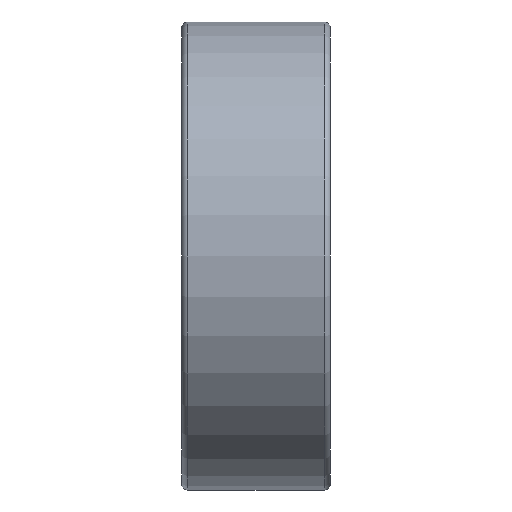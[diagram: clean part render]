
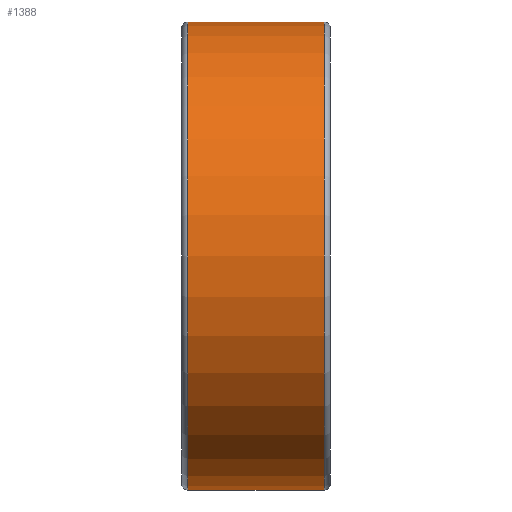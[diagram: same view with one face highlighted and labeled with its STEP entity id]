
A CAD part, front view. The second image highlights one B-rep face of the part: STEP entity #1388.
In plain terms, the highlighted cylindrical face has radius 11 mm (diameter 22 mm), a partial arc.
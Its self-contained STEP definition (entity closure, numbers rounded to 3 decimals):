
#447=CARTESIAN_POINT('',(3.2,0.,0.));
#448=DIRECTION('',(-1.,0.,0.));
#449=DIRECTION('',(0.,0.,-1.));
#450=AXIS2_PLACEMENT_3D('',#447,#448,#449);
#452=DIRECTION('',(-1.,0.,0.));
#453=VECTOR('',#452,6.4);
#454=CARTESIAN_POINT('',(3.2,0.,-11.));
#455=LINE('',#454,#453);
#456=DIRECTION('',(-1.,0.,0.));
#457=VECTOR('',#456,6.4);
#458=CARTESIAN_POINT('',(3.2,0.,11.));
#459=LINE('',#458,#457);
#475=CARTESIAN_POINT('',(-3.2,0.,0.));
#476=DIRECTION('',(1.,0.,0.));
#477=DIRECTION('',(0.,0.,1.));
#478=AXIS2_PLACEMENT_3D('',#475,#476,#477);
#852=CARTESIAN_POINT('',(3.2,0.,11.));
#853=VERTEX_POINT('',#852);
#854=CARTESIAN_POINT('',(3.2,0.,-11.));
#855=VERTEX_POINT('',#854);
#856=CARTESIAN_POINT('',(-3.2,0.,-11.));
#857=VERTEX_POINT('',#856);
#858=CARTESIAN_POINT('',(-3.2,0.,11.));
#859=VERTEX_POINT('',#858);
#1374=CARTESIAN_POINT('',(0.,0.,0.));
#1375=DIRECTION('',(-1.,0.,0.));
#1376=DIRECTION('',(0.,0.,1.));
#1377=AXIS2_PLACEMENT_3D('',#1374,#1375,#1376);
#1378=CYLINDRICAL_SURFACE('',#1377,11.);
#1380=ORIENTED_EDGE('',*,*,#1379,.T.);
#1382=ORIENTED_EDGE('',*,*,#1381,.F.);
#1384=ORIENTED_EDGE('',*,*,#1383,.F.);
#1385=ORIENTED_EDGE('',*,*,#1367,.F.);
#1386=EDGE_LOOP('',(#1380,#1382,#1384,#1385));
#1387=FACE_OUTER_BOUND('',#1386,.F.);
#1388=ADVANCED_FACE('',(#1387),#1378,.T.);
#451=CIRCLE('',#450,11.);
#479=CIRCLE('',#478,11.);
#1367=EDGE_CURVE('',#855,#853,#451,.T.);
#1379=EDGE_CURVE('',#855,#857,#455,.T.);
#1381=EDGE_CURVE('',#859,#857,#479,.T.);
#1383=EDGE_CURVE('',#853,#859,#459,.T.);
